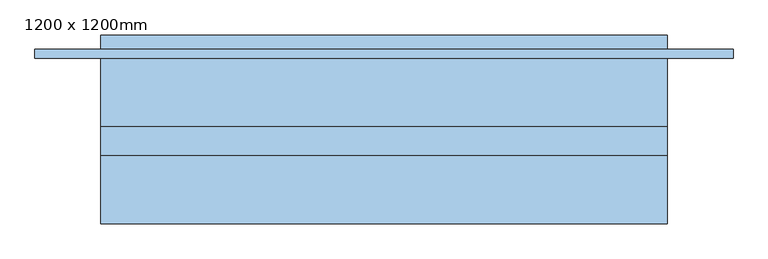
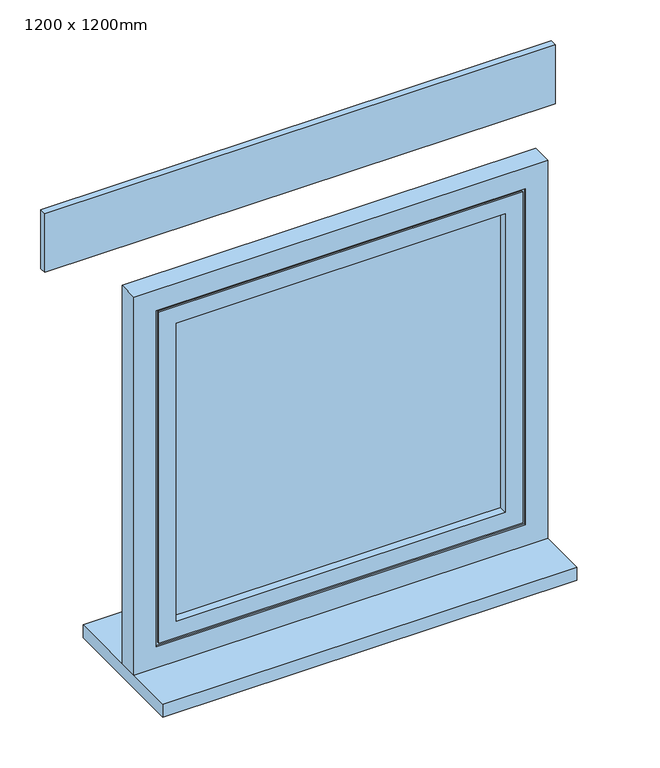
"""IFC4 building model written with IfcOpenShell, lengths in millimetres: window geometry, Lekce 16 Okno : 1200 x 1200mm."""

from ifc_helpers import new_model, si_unit, frame, origin, place, context, project, spatial, polyline, outline, extrude, faceted_brep, source, transform, mapped, element, save


def window_1200_x_1200mm_0c9d717d(model_context):
    return source(origin(), model_context, "Body", "SolidModel", [
        extrude(outline(polyline([(482.4540566, 5.0), (482.4540566, -5.0), (-482.4540566, -5.0), (-482.4540566, 5.0), (482.4540566, 5.0)])), frame((0.0, 0.0, 957.5459434), z_axis=(0.0, 0.0, 1.0), x_axis=(1.0, 0.0, 0.0)), (0.0, 0.0, 1.0), 924.9081133),
        faceted_brep([(-527.4540566, 30.0, 1927.4540566), (-527.4540566, 25.0, 1927.4540566), (527.4540566, 25.0, 1927.4540566), (527.4540566, 30.0, 1927.4540566), (-477.4540566, 5.0, 1877.4540566), (-477.4540566, 30.0, 1877.4540566), (477.4540566, 30.0, 1877.4540566), (477.4540566, 5.0, 1877.4540566), (-482.4540566, -5.0, 1882.4540566), (-482.4540566, 5.0, 1882.4540566), (482.4540566, 5.0, 1882.4540566), (482.4540566, -5.0, 1882.4540566), (-477.4540566, -30.0, 1877.4540566), (-477.4540566, -5.0, 1877.4540566), (477.4540566, -5.0, 1877.4540566), (477.4540566, -30.0, 1877.4540566), (-527.4540566, -25.0, 1927.4540566), (-527.4540566, -30.0, 1927.4540566), (527.4540566, -30.0, 1927.4540566), (527.4540566, -25.0, 1927.4540566), (-534.8200453, 25.0, 1934.8200453), (-534.8200453, -25.0, 1934.8200453), (534.8200453, -25.0, 1934.8200453), (534.8200453, 25.0, 1934.8200453), (527.4540566, 25.0, 912.5459434), (527.4540566, 30.0, 912.5459434), (477.4540566, 30.0, 962.5459434), (477.4540566, 5.0, 962.5459434), (482.4540566, 5.0, 957.5459434), (482.4540566, -5.0, 957.5459434), (477.4540566, -5.0, 962.5459434), (477.4540566, -30.0, 962.5459434), (527.4540566, -30.0, 912.5459434), (527.4540566, -25.0, 912.5459434), (534.8200453, -25.0, 905.1799547), (534.8200453, 25.0, 905.1799547), (-527.4540566, 25.0, 912.5459434), (-527.4540566, 30.0, 912.5459434), (-477.4540566, 30.0, 962.5459434), (-477.4540566, 5.0, 962.5459434), (-482.4540566, 5.0, 957.5459434), (-482.4540566, -5.0, 957.5459434), (-477.4540566, -5.0, 962.5459434), (-477.4540566, -30.0, 962.5459434), (-527.4540566, -30.0, 912.5459434), (-527.4540566, -25.0, 912.5459434), (-534.8200453, -25.0, 905.1799547), (-534.8200453, 25.0, 905.1799547)], [[[0, 1, 2, 3]], [[4, 5, 6, 7]], [[8, 9, 10, 11]], [[12, 13, 14, 15]], [[16, 17, 18, 19]], [[20, 21, 22, 23]], [[3, 2, 24, 25]], [[7, 6, 26, 27]], [[11, 10, 28, 29]], [[15, 14, 30, 31]], [[19, 18, 32, 33]], [[23, 22, 34, 35]], [[25, 24, 36, 37]], [[27, 26, 38, 39]], [[29, 28, 40, 41]], [[31, 30, 42, 43]], [[33, 32, 44, 45]], [[35, 34, 46, 47]], [[37, 36, 1, 0]], [[3, 25, 37, 0], [5, 38, 26, 6]], [[39, 38, 5, 4]], [[9, 40, 28, 10], [7, 27, 39, 4]], [[41, 40, 9, 8]], [[11, 29, 41, 8], [13, 42, 30, 14]], [[43, 42, 13, 12]], [[17, 44, 32, 18], [15, 31, 43, 12]], [[45, 44, 17, 16]], [[21, 46, 34, 22], [19, 33, 45, 16]], [[47, 46, 21, 20]], [[23, 35, 47, 20], [1, 36, 24, 2]]]),
        extrude(outline(polyline([(2000.0, -600.0), (840.0, -600.0), (840.0, 600.0), (2000.0, 600.0), (2000.0, -600.0)]), holes=[polyline([(1934.8200453, 534.8200453), (905.1799547, 534.8200453), (905.1799547, -534.8200453), (1934.8200453, -534.8200453), (1934.8200453, 534.8200453)])]), frame((0.0, -30.0, 0.0), z_axis=(0.0, 1.0, 0.0), x_axis=(0.0, 0.0, 1.0)), (0.0, 0.0, 1.0), 60.0),
        extrude(outline(polyline([(740.0, 175.0), (-740.0, 175.0), (-740.0, 195.0), (740.0, 195.0), (740.0, 175.0)])), frame((0.0, 0.0, 2000.0), z_axis=(0.0, 0.0, 1.0), x_axis=(1.0, 0.0, 0.0)), (0.0, 0.0, 1.0), 180.0),
        extrude(outline(polyline([(600.0, 225.0), (600.0, -175.0), (-600.0, -175.0), (-600.0, 225.0), (600.0, 225.0)])), frame((0.0, 0.0, 800.0), z_axis=(0.0, 0.0, 1.0), x_axis=(1.0, 0.0, 0.0)), (0.0, 0.0, 1.0), 40.0),
    ])


if __name__ == "__main__":
    model = new_model("IFC4")
    model_context = context("Model", 3, world=origin())
    ifc_project = project(units=[si_unit("LENGTHUNIT", "METRE", prefix="MILLI")], contexts=[model_context])
    site = spatial("IfcSite", under=ifc_project)
    building = spatial("IfcBuilding", under=site)
    placement = place(None, origin())
    window_1200_x_1200mm_shape = window_1200_x_1200mm_0c9d717d(model_context)
    element("IfcWindow", 1, ObjectType="Lekce 16 Okno : 1200 x 1200mm", at=placement, inside=building, context=model_context, shape_type="MappedRepresentation", body=[
        mapped(window_1200_x_1200mm_shape, transform((0.0, 0.0, 0.0), x_axis=(1.0, 0.0, 0.0), y_axis=(0.0, 1.0, 0.0), z_axis=(0.0, 0.0, 1.0))),
    ])
    save(model, "model.ifc")
